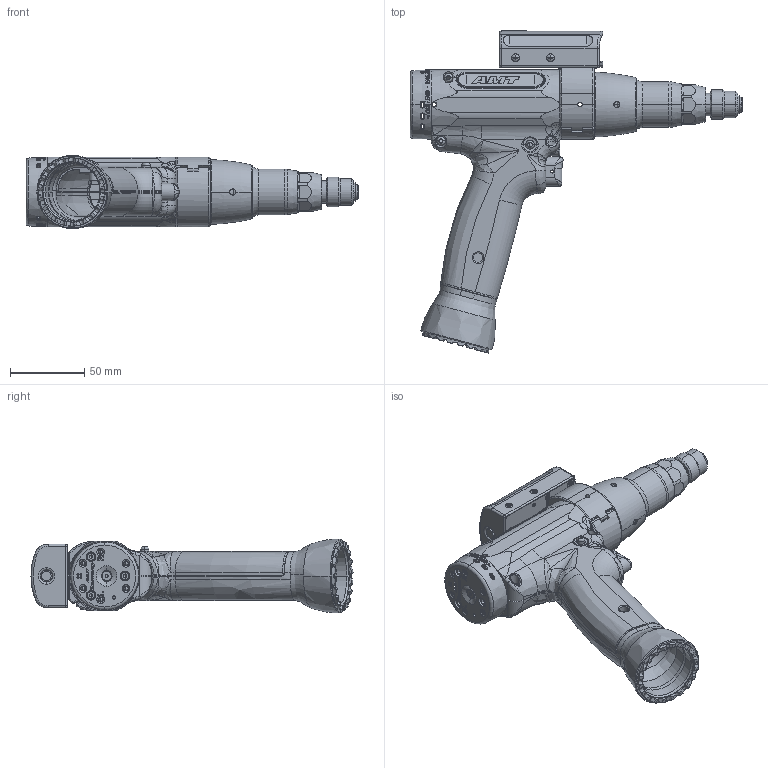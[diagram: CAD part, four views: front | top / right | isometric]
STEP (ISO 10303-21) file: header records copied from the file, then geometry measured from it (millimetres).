
FILE_DESCRIPTION (( 'STEP AP214' ), '1' );
FILE_NAME ('7900242_PCX1013ZH14_Scanner.STEP', '2012-02-07T16:44:27', ( ' ' ), ( '' ), 'SwSTEP 2.0', 'SolidWorks 2009', '' );
FILE_SCHEMA (( 'AUTOMOTIVE_DESIGN' ));
Length unit declared in the file: millimetre
Products named in the file (1): 7900242_PCX1013ZH14_Scanner
Bounding box: 223.3 x 216.58 x 49.52 mm (x, y, z)
Surface area: 76827.4 mm2 (no closed solid volume)
Topology: 0 solids, 72 shells, 1342 faces, 5051 edges, 3649 vertices
Faces by surface type: cylinder 450, plane 371, bspline 285, cone 107, torus 94, sphere 35
Entity records: 99262 total; most frequent: CARTESIAN_POINT 46883, ORIENTED_EDGE 7665, DIRECTION 6592, EDGE_CURVE 5005, VERTEX_POINT 3639, AXIS2_PLACEMENT_3D 2409, VECTOR 1774, LINE 1774
